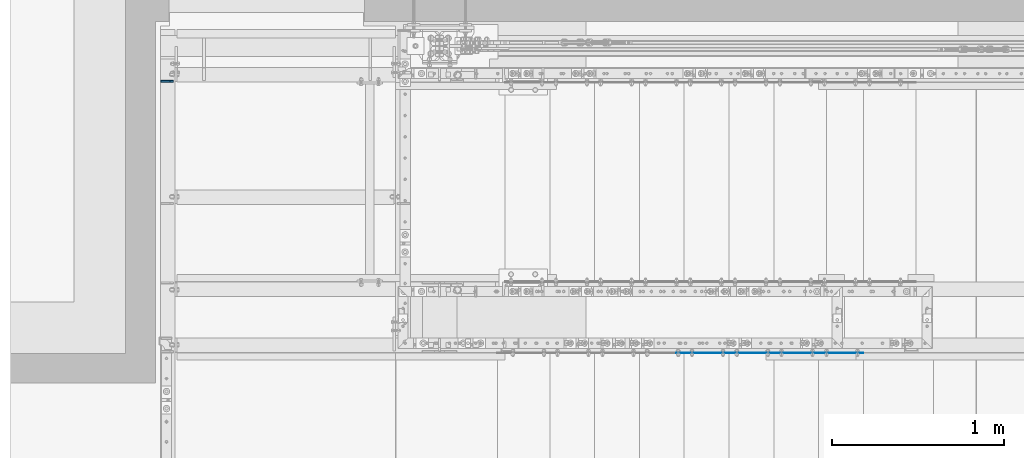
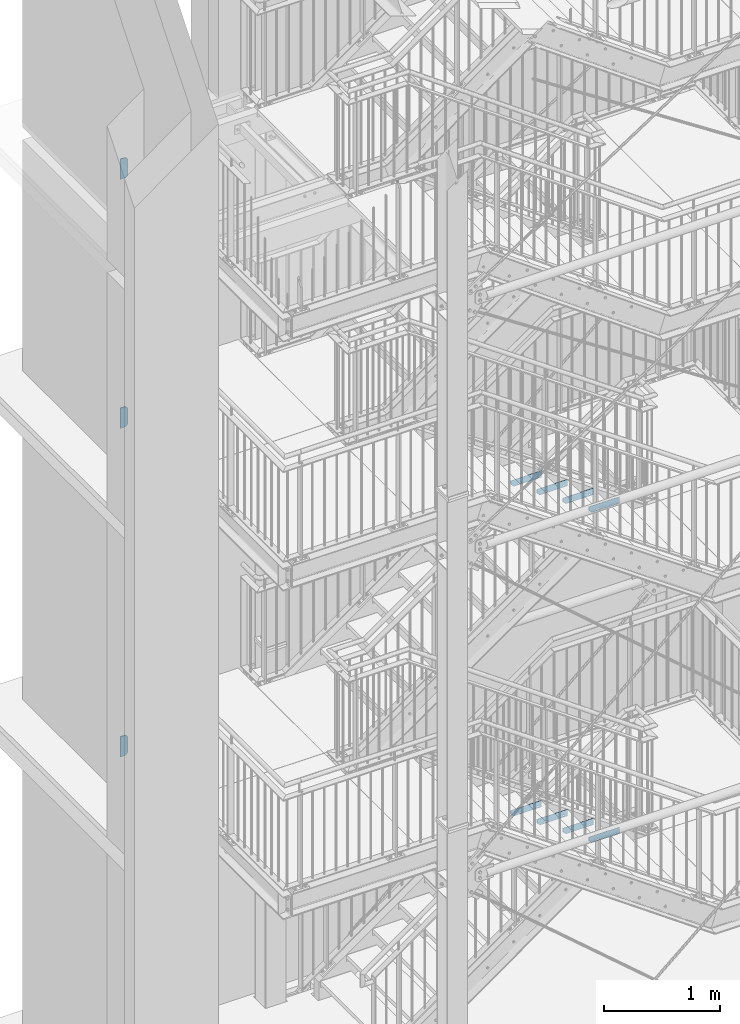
# One storey, part 175 of 825: 11 plates, 22 openings.
"""IFC2X3 building model written with IfcOpenShell, lengths in millimetres."""

from ifc_helpers import new_model, entity, si_unit, converted_unit, point, frame, frame_2d, origin, origin_with_axes, origin_2d_with_axis, place, context, project, spatial, polyline, circle_curve, line_curve, trimmed, segment, composite_curve, circle, outline, extrude, material, layer, layer_set, element, save


model = new_model("IFC2X3")

# Units and contexts
model_context = context("Model", 3, precision=1e-09, world=origin_with_axes())
ifc_project = project(units=[si_unit("LENGTHUNIT", "METRE", prefix="MILLI"), si_unit("AREAUNIT", "SQUARE_METRE"), si_unit("VOLUMEUNIT", "CUBIC_METRE"), converted_unit("PLANEANGLEUNIT", "DEGREE", entity("IfcPlaneAngleMeasure", 0.01745329), si_unit("PLANEANGLEUNIT", "RADIAN"), dimensions=[0, 0, 0, 0, 0, 0, 0])], contexts=[model_context])

# Site, building, storey
site_placement = place(None, origin_with_axes())
site = spatial("IfcSite", under=ifc_project, at=site_placement, Name="Cnopf'sche Kinderklinik", CompositionType="ELEMENT")
building_placement = place(site_placement, origin_with_axes())
building = spatial("IfcBuilding", under=site, at=building_placement, Name="Struktur 1", CompositionType="ELEMENT")
storey_placement = place(building_placement, origin_with_axes())
storey = spatial("IfcBuildingStorey", under=building, at=storey_placement, Name="Default Storey", CompositionType="ELEMENT", Elevation=0.0)

# Plate, openings
ifc_material = material(Name="S235JR")
ifc_layer_1 = layer(ifc_material, 3.0)
ifc_layer_set_1 = layer_set([ifc_layer_1], Name="S235JR")
plate_1_placement = place(None, frame((6536.713402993, 5733.736971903, 6446.0526315), z_axis=(0.0, 1.0, 0.0), x_axis=(0.0, 0.0, -1.0)))
plate_1 = element("IfcPlate", 1, at=plate_1_placement, inside=storey, material=ifc_layer_set_1, Name="Grate_Step#24", ObjectType="Grate_Step#24", context=model_context, shape_type="SweptSolid", body=[
    extrude(outline(polyline([(0.0, 0.0), (70.0, 0.0), (70.0, 275.0), (40.0, 305.0), (0.0, 305.0), (0.0, 0.0)])), origin_with_axes(), (0.0, 0.0, 1.0), 3.0),
])
opening_1_placement = place(plate_1_placement, frame((55.0, 35.0, -0.5), z_axis=(0.0, 0.0, 1.0), x_axis=(0.0, 1.0, 0.0)))
element("IfcOpeningElement", 2, at=opening_1_placement, cuts=plate_1, ObjectType="Opening", context=model_context, shape_type="SweptSolid", body=[
    extrude(circle(Radius=7.001, at=origin_2d_with_axis()), origin(), (0.0, 0.0, 1.0), 4.0),
])
opening_2_placement = place(plate_1_placement, frame((55.0, 215.0, -0.5), z_axis=(0.0, 0.0, 1.0), x_axis=(0.0, 1.0, 0.0)))
element("IfcOpeningElement", 3, at=opening_2_placement, cuts=plate_1, ObjectType="Opening", context=model_context, shape_type="SweptSolid", body=[
    extrude(outline(composite_curve([segment(trimmed(line_curve((-9.5, -7.001), (1.0, 0.0), 19.0), [point((-9.5, -7.001))], [point((9.5, -7.001))], True, "CARTESIAN"), True, "CONTINUOUS"), segment(trimmed(circle_curve(frame_2d((9.5, 0.0), x_axis=(1.0, 0.0)), 7.001), [point((9.5, -7.001))], [point((9.5, 7.001))], True, "CARTESIAN"), True, "CONTINUOUS"), segment(trimmed(line_curve((9.5, 7.001), (-1.0, 0.0), 19.0), [point((9.5, 7.001))], [point((-9.5, 7.001))], True, "CARTESIAN"), True, "CONTINUOUS"), segment(trimmed(circle_curve(frame_2d((-9.5, 0.0), x_axis=(1.0, 0.0)), 7.001), [point((-9.5, 7.001))], [point((-9.5, -7.001))], True, "CARTESIAN"), True, "CONTINUOUS")], self_intersect=False)), origin(), (0.0, 0.0, 1.0), 4.0),
])

plate_2_placement = place(None, frame((7316.713402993, 5733.736971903, 5897.6842104), z_axis=(0.0, 1.0, 0.0), x_axis=(0.0, 0.0, -1.0)))
plate_2 = element("IfcPlate", 4, at=plate_2_placement, inside=storey, material=ifc_layer_set_1, Name="Grate_Step#3", ObjectType="Grate_Step#3", context=model_context, shape_type="SweptSolid", body=[
    extrude(outline(polyline([(0.0, 0.0), (70.0, 0.0), (70.0, 275.0), (40.0, 305.0), (0.0, 305.0), (0.0, 0.0)])), origin_with_axes(), (0.0, 0.0, 1.0), 3.0),
])
opening_3_placement = place(plate_2_placement, frame((55.0, 35.0, -0.5), z_axis=(0.0, 0.0, 1.0), x_axis=(0.0, 1.0, 0.0)))
element("IfcOpeningElement", 5, at=opening_3_placement, cuts=plate_2, ObjectType="Opening", context=model_context, shape_type="SweptSolid", body=[
    extrude(circle(Radius=7.001, at=origin_2d_with_axis()), origin(), (0.0, 0.0, 1.0), 4.0),
])
opening_4_placement = place(plate_2_placement, frame((55.0, 215.0, -0.5), z_axis=(0.0, 0.0, 1.0), x_axis=(0.0, 1.0, 0.0)))
element("IfcOpeningElement", 6, at=opening_4_placement, cuts=plate_2, ObjectType="Opening", context=model_context, shape_type="SweptSolid", body=[
    extrude(outline(composite_curve([segment(trimmed(line_curve((-9.5, -7.001), (1.0, 0.0), 19.0), [point((-9.5, -7.001))], [point((9.5, -7.001))], True, "CARTESIAN"), True, "CONTINUOUS"), segment(trimmed(circle_curve(frame_2d((9.5, 0.0), x_axis=(1.0, 0.0)), 7.001), [point((9.5, -7.001))], [point((9.5, 7.001))], True, "CARTESIAN"), True, "CONTINUOUS"), segment(trimmed(line_curve((9.5, 7.001), (-1.0, 0.0), 19.0), [point((9.5, 7.001))], [point((-9.5, 7.001))], True, "CARTESIAN"), True, "CONTINUOUS"), segment(trimmed(circle_curve(frame_2d((-9.5, 0.0), x_axis=(1.0, 0.0)), 7.001), [point((-9.5, 7.001))], [point((-9.5, -7.001))], True, "CARTESIAN"), True, "CONTINUOUS")], self_intersect=False)), origin(), (0.0, 0.0, 1.0), 4.0),
])

plate_3_placement = place(None, frame((6796.713402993, 5733.736971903, 2776.3684208), z_axis=(0.0, 1.0, 0.0), x_axis=(0.0, 0.0, -1.0)))
plate_3 = element("IfcPlate", 7, at=plate_3_placement, inside=storey, material=ifc_layer_set_1, Name="Grate_Step#17", ObjectType="Grate_Step#17", context=model_context, shape_type="SweptSolid", body=[
    extrude(outline(polyline([(0.0, 0.0), (70.0, 0.0), (70.0, 275.0), (40.0, 305.0), (0.0, 305.0), (0.0, 0.0)])), origin_with_axes(), (0.0, 0.0, 1.0), 3.0),
])
opening_5_placement = place(plate_3_placement, frame((55.0, 215.0, -0.5), z_axis=(0.0, 0.0, 1.0), x_axis=(0.0, 1.0, 0.0)))
element("IfcOpeningElement", 8, at=opening_5_placement, cuts=plate_3, ObjectType="Opening", context=model_context, shape_type="SweptSolid", body=[
    extrude(outline(composite_curve([segment(trimmed(line_curve((-9.5, -7.001), (1.0, 0.0), 19.0), [point((-9.5, -7.001))], [point((9.5, -7.001))], True, "CARTESIAN"), True, "CONTINUOUS"), segment(trimmed(circle_curve(frame_2d((9.5, 0.0), x_axis=(1.0, 0.0)), 7.001), [point((9.5, -7.001))], [point((9.5, 7.001))], True, "CARTESIAN"), True, "CONTINUOUS"), segment(trimmed(line_curve((9.5, 7.001), (-1.0, 0.0), 19.0), [point((9.5, 7.001))], [point((-9.5, 7.001))], True, "CARTESIAN"), True, "CONTINUOUS"), segment(trimmed(circle_curve(frame_2d((-9.5, 0.0), x_axis=(1.0, 0.0)), 7.001), [point((-9.5, 7.001))], [point((-9.5, -7.001))], True, "CARTESIAN"), True, "CONTINUOUS")], self_intersect=False)), origin(), (0.0, 0.0, 1.0), 4.0),
])
opening_6_placement = place(plate_3_placement, frame((55.0, 35.0, -0.5), z_axis=(0.0, 0.0, 1.0), x_axis=(0.0, 1.0, 0.0)))
element("IfcOpeningElement", 9, at=opening_6_placement, cuts=plate_3, ObjectType="Opening", context=model_context, shape_type="SweptSolid", body=[
    extrude(circle(Radius=7.001, at=origin_2d_with_axis()), origin(), (0.0, 0.0, 1.0), 4.0),
])

plate_4_placement = place(None, frame((7316.713402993, 5733.736971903, 2406.1578944), z_axis=(0.0, 1.0, 0.0), x_axis=(0.0, 0.0, -1.0)))
plate_4 = element("IfcPlate", 10, at=plate_4_placement, inside=storey, material=ifc_layer_set_1, Name="Grate_Step#3", ObjectType="Grate_Step#3", context=model_context, shape_type="SweptSolid", body=[
    extrude(outline(polyline([(0.0, 0.0), (70.0, 0.0), (70.0, 275.0), (40.0, 305.0), (0.0, 305.0), (0.0, 0.0)])), origin_with_axes(), (0.0, 0.0, 1.0), 3.0),
])
opening_7_placement = place(plate_4_placement, frame((55.0, 215.0, -0.5), z_axis=(0.0, 0.0, 1.0), x_axis=(0.0, 1.0, 0.0)))
element("IfcOpeningElement", 11, at=opening_7_placement, cuts=plate_4, ObjectType="Opening", context=model_context, shape_type="SweptSolid", body=[
    extrude(outline(composite_curve([segment(trimmed(line_curve((-9.5, -7.001), (1.0, 0.0), 19.0), [point((-9.5, -7.001))], [point((9.5, -7.001))], True, "CARTESIAN"), True, "CONTINUOUS"), segment(trimmed(circle_curve(frame_2d((9.5, 0.0), x_axis=(1.0, 0.0)), 7.001), [point((9.5, -7.001))], [point((9.5, 7.001))], True, "CARTESIAN"), True, "CONTINUOUS"), segment(trimmed(line_curve((9.5, 7.001), (-1.0, 0.0), 19.0), [point((9.5, 7.001))], [point((-9.5, 7.001))], True, "CARTESIAN"), True, "CONTINUOUS"), segment(trimmed(circle_curve(frame_2d((-9.5, 0.0), x_axis=(1.0, 0.0)), 7.001), [point((-9.5, 7.001))], [point((-9.5, -7.001))], True, "CARTESIAN"), True, "CONTINUOUS")], self_intersect=False)), origin(), (0.0, 0.0, 1.0), 4.0),
])
opening_8_placement = place(plate_4_placement, frame((55.0, 35.0, -0.5), z_axis=(0.0, 0.0, 1.0), x_axis=(0.0, 1.0, 0.0)))
element("IfcOpeningElement", 12, at=opening_8_placement, cuts=plate_4, ObjectType="Opening", context=model_context, shape_type="SweptSolid", body=[
    extrude(circle(Radius=7.001, at=origin_2d_with_axis()), origin(), (0.0, 0.0, 1.0), 4.0),
])

plate_5_placement = place(None, frame((7056.713402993, 5733.736971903, 6080.4736841), z_axis=(0.0, 1.0, 0.0), x_axis=(0.0, 0.0, -1.0)))
plate_5 = element("IfcPlate", 13, at=plate_5_placement, inside=storey, material=ifc_layer_set_1, Name="Grate_Step#10", ObjectType="Grate_Step#10", context=model_context, shape_type="SweptSolid", body=[
    extrude(outline(polyline([(0.0, 0.0), (70.0, 0.0), (70.0, 275.0), (40.0, 305.0), (0.0, 305.0), (0.0, 0.0)])), origin_with_axes(), (0.0, 0.0, 1.0), 3.0),
])
opening_9_placement = place(plate_5_placement, frame((55.0, 215.0, -0.5), z_axis=(0.0, 0.0, 1.0), x_axis=(0.0, 1.0, 0.0)))
element("IfcOpeningElement", 14, at=opening_9_placement, cuts=plate_5, ObjectType="Opening", context=model_context, shape_type="SweptSolid", body=[
    extrude(outline(composite_curve([segment(trimmed(line_curve((-9.5, -7.001), (1.0, 0.0), 19.0), [point((-9.5, -7.001))], [point((9.5, -7.001))], True, "CARTESIAN"), True, "CONTINUOUS"), segment(trimmed(circle_curve(frame_2d((9.5, 0.0), x_axis=(1.0, 0.0)), 7.001), [point((9.5, -7.001))], [point((9.5, 7.001))], True, "CARTESIAN"), True, "CONTINUOUS"), segment(trimmed(line_curve((9.5, 7.001), (-1.0, 0.0), 19.0), [point((9.5, 7.001))], [point((-9.5, 7.001))], True, "CARTESIAN"), True, "CONTINUOUS"), segment(trimmed(circle_curve(frame_2d((-9.5, 0.0), x_axis=(1.0, 0.0)), 7.001), [point((-9.5, 7.001))], [point((-9.5, -7.001))], True, "CARTESIAN"), True, "CONTINUOUS")], self_intersect=False)), origin(), (0.0, 0.0, 1.0), 4.0),
])
opening_10_placement = place(plate_5_placement, frame((55.0, 35.0, -0.5), z_axis=(0.0, 0.0, 1.0), x_axis=(0.0, 1.0, 0.0)))
element("IfcOpeningElement", 15, at=opening_10_placement, cuts=plate_5, ObjectType="Opening", context=model_context, shape_type="SweptSolid", body=[
    extrude(circle(Radius=7.001, at=origin_2d_with_axis()), origin(), (0.0, 0.0, 1.0), 4.0),
])

plate_6_placement = place(None, frame((7056.713402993, 5733.736971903, 2591.2631576), z_axis=(0.0, 1.0, 0.0), x_axis=(0.0, 0.0, -1.0)))
plate_6 = element("IfcPlate", 16, at=plate_6_placement, inside=storey, material=ifc_layer_set_1, Name="Grate_Step#10", ObjectType="Grate_Step#10", context=model_context, shape_type="SweptSolid", body=[
    extrude(outline(polyline([(0.0, 0.0), (70.0, 0.0), (70.0, 275.0), (40.0, 305.0), (0.0, 305.0), (0.0, 0.0)])), origin_with_axes(), (0.0, 0.0, 1.0), 3.0),
])
opening_11_placement = place(plate_6_placement, frame((55.0, 215.0, -0.5), z_axis=(0.0, 0.0, 1.0), x_axis=(0.0, 1.0, 0.0)))
element("IfcOpeningElement", 17, at=opening_11_placement, cuts=plate_6, ObjectType="Opening", context=model_context, shape_type="SweptSolid", body=[
    extrude(outline(composite_curve([segment(trimmed(line_curve((-9.5, -7.001), (1.0, 0.0), 19.0), [point((-9.5, -7.001))], [point((9.5, -7.001))], True, "CARTESIAN"), True, "CONTINUOUS"), segment(trimmed(circle_curve(frame_2d((9.5, 0.0), x_axis=(1.0, 0.0)), 7.001), [point((9.5, -7.001))], [point((9.5, 7.001))], True, "CARTESIAN"), True, "CONTINUOUS"), segment(trimmed(line_curve((9.5, 7.001), (-1.0, 0.0), 19.0), [point((9.5, 7.001))], [point((-9.5, 7.001))], True, "CARTESIAN"), True, "CONTINUOUS"), segment(trimmed(circle_curve(frame_2d((-9.5, 0.0), x_axis=(1.0, 0.0)), 7.001), [point((-9.5, 7.001))], [point((-9.5, -7.001))], True, "CARTESIAN"), True, "CONTINUOUS")], self_intersect=False)), origin(), (0.0, 0.0, 1.0), 4.0),
])
opening_12_placement = place(plate_6_placement, frame((55.0, 35.0, -0.5), z_axis=(0.0, 0.0, 1.0), x_axis=(0.0, 1.0, 0.0)))
element("IfcOpeningElement", 18, at=opening_12_placement, cuts=plate_6, ObjectType="Opening", context=model_context, shape_type="SweptSolid", body=[
    extrude(circle(Radius=7.001, at=origin_2d_with_axis()), origin(), (0.0, 0.0, 1.0), 4.0),
])

plate_7_placement = place(None, frame((6796.713402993, 5733.736971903, 6263.2631578), z_axis=(0.0, 1.0, 0.0), x_axis=(0.0, 0.0, -1.0)))
plate_7 = element("IfcPlate", 19, at=plate_7_placement, inside=storey, material=ifc_layer_set_1, Name="Grate_Step#17", ObjectType="Grate_Step#17", context=model_context, shape_type="SweptSolid", body=[
    extrude(outline(polyline([(0.0, 0.0), (70.0, 0.0), (70.0, 275.0), (40.0, 305.0), (0.0, 305.0), (0.0, 0.0)])), origin_with_axes(), (0.0, 0.0, 1.0), 3.0),
])
opening_13_placement = place(plate_7_placement, frame((55.0, 35.0, -0.5), z_axis=(0.0, 0.0, 1.0), x_axis=(0.0, 1.0, 0.0)))
element("IfcOpeningElement", 20, at=opening_13_placement, cuts=plate_7, ObjectType="Opening", context=model_context, shape_type="SweptSolid", body=[
    extrude(circle(Radius=7.001, at=origin_2d_with_axis()), origin(), (0.0, 0.0, 1.0), 4.0),
])
opening_14_placement = place(plate_7_placement, frame((55.0, 215.0, -0.5), z_axis=(0.0, 0.0, 1.0), x_axis=(0.0, 1.0, 0.0)))
element("IfcOpeningElement", 21, at=opening_14_placement, cuts=plate_7, ObjectType="Opening", context=model_context, shape_type="SweptSolid", body=[
    extrude(outline(composite_curve([segment(trimmed(line_curve((-9.5, -7.001), (1.0, 0.0), 19.0), [point((-9.5, -7.001))], [point((9.5, -7.001))], True, "CARTESIAN"), True, "CONTINUOUS"), segment(trimmed(circle_curve(frame_2d((9.5, 0.0), x_axis=(1.0, 0.0)), 7.001), [point((9.5, -7.001))], [point((9.5, 7.001))], True, "CARTESIAN"), True, "CONTINUOUS"), segment(trimmed(line_curve((9.5, 7.001), (-1.0, 0.0), 19.0), [point((9.5, 7.001))], [point((-9.5, 7.001))], True, "CARTESIAN"), True, "CONTINUOUS"), segment(trimmed(circle_curve(frame_2d((-9.5, 0.0), x_axis=(1.0, 0.0)), 7.001), [point((-9.5, 7.001))], [point((-9.5, -7.001))], True, "CARTESIAN"), True, "CONTINUOUS")], self_intersect=False)), origin(), (0.0, 0.0, 1.0), 4.0),
])

plate_8_placement = place(None, frame((6536.713402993, 5733.736971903, 2961.473684), z_axis=(0.0, 1.0, 0.0), x_axis=(0.0, 0.0, -1.0)))
plate_8 = element("IfcPlate", 22, at=plate_8_placement, inside=storey, material=ifc_layer_set_1, Name="Grate_Step#24", ObjectType="Grate_Step#24", context=model_context, shape_type="SweptSolid", body=[
    extrude(outline(polyline([(0.0, 0.0), (70.0, 0.0), (70.0, 275.0), (40.0, 305.0), (0.0, 305.0), (0.0, 0.0)])), origin_with_axes(), (0.0, 0.0, 1.0), 3.0),
])
opening_15_placement = place(plate_8_placement, frame((55.0, 215.0, -0.5), z_axis=(0.0, 0.0, 1.0), x_axis=(0.0, 1.0, 0.0)))
element("IfcOpeningElement", 23, at=opening_15_placement, cuts=plate_8, ObjectType="Opening", context=model_context, shape_type="SweptSolid", body=[
    extrude(outline(composite_curve([segment(trimmed(line_curve((-9.5, -7.001), (1.0, 0.0), 19.0), [point((-9.5, -7.001))], [point((9.5, -7.001))], True, "CARTESIAN"), True, "CONTINUOUS"), segment(trimmed(circle_curve(frame_2d((9.5, 0.0), x_axis=(1.0, 0.0)), 7.001), [point((9.5, -7.001))], [point((9.5, 7.001))], True, "CARTESIAN"), True, "CONTINUOUS"), segment(trimmed(line_curve((9.5, 7.001), (-1.0, 0.0), 19.0), [point((9.5, 7.001))], [point((-9.5, 7.001))], True, "CARTESIAN"), True, "CONTINUOUS"), segment(trimmed(circle_curve(frame_2d((-9.5, 0.0), x_axis=(1.0, 0.0)), 7.001), [point((-9.5, 7.001))], [point((-9.5, -7.001))], True, "CARTESIAN"), True, "CONTINUOUS")], self_intersect=False)), origin(), (0.0, 0.0, 1.0), 4.0),
])
opening_16_placement = place(plate_8_placement, frame((55.0, 35.0, -0.5), z_axis=(0.0, 0.0, 1.0), x_axis=(0.0, 1.0, 0.0)))
element("IfcOpeningElement", 24, at=opening_16_placement, cuts=plate_8, ObjectType="Opening", context=model_context, shape_type="SweptSolid", body=[
    extrude(circle(Radius=7.001, at=origin_2d_with_axis()), origin(), (0.0, 0.0, 1.0), 4.0),
])

ifc_layer_2 = layer(ifc_material, 10.0)
ifc_layer_set_2 = layer_set([ifc_layer_2], Name="S235JR")
plate_9_placement = place(None, frame((3312.213402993, 7316.736971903, 3829.855161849), z_axis=(0.0, -1.0, 0.0), x_axis=(-0.996815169, 0.0, 0.079746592)))
plate_9 = element("IfcPlate", 25, at=plate_9_placement, inside=storey, material=ifc_layer_set_2, Name="Stiffener#1", ObjectType="Stiffener#1", context=model_context, shape_type="SweptSolid", body=[
    extrude(outline(polyline([(0.0, 0.0), (75.239625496, 0.0), (57.877952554, 217.017159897), (-16.404697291, 205.05517107), (0.0, 0.0)])), origin_with_axes(), (0.0, 0.0, 1.0), 10.0),
])
opening_17_placement = place(plate_9_placement, frame((0.0, 0.0, -0.01), z_axis=(0.0, 0.0, 1.0), x_axis=(1.0, 0.0, 0.0)))
element("IfcOpeningElement", 26, at=opening_17_placement, cuts=plate_9, ObjectType="Opening", context=model_context, shape_type="SweptSolid", body=[
    extrude(outline(polyline([(-16.404697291, 205.05517107), (-14.809765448, 185.118867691), (3.34092195, 208.23487558), (-16.404697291, 205.05517107)])), origin(), (0.0, 0.0, 1.0), 10.02),
])
opening_18_placement = place(plate_9_placement, frame((0.0, 0.0, -0.01), z_axis=(0.0, 0.0, 1.0), x_axis=(1.0, 0.0, 0.0)))
element("IfcOpeningElement", 27, at=opening_18_placement, cuts=plate_9, ObjectType="Opening", context=model_context, shape_type="SweptSolid", body=[
    extrude(outline(polyline([(0.0, 0.0), (20.0, 0.0), (-1.594931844, 19.936303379), (0.0, 0.0)])), origin(), (0.0, 0.0, 1.0), 10.02),
])

plate_10_placement = place(None, frame((3312.213402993, 7316.736971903, 7302.855161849), z_axis=(0.0, -1.0, 0.0), x_axis=(-0.996815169, 0.0, 0.079746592)))
plate_10 = element("IfcPlate", 28, at=plate_10_placement, inside=storey, material=ifc_layer_set_2, Name="Stiffener#1", ObjectType="Stiffener#1", context=model_context, shape_type="SweptSolid", body=[
    extrude(outline(polyline([(0.0, 0.0), (75.239625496, 0.0), (57.877952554, 217.017159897), (-16.404697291, 205.05517107), (0.0, 0.0)])), origin_with_axes(), (0.0, 0.0, 1.0), 10.0),
])
opening_19_placement = place(plate_10_placement, frame((0.0, 0.0, -0.01), z_axis=(0.0, 0.0, 1.0), x_axis=(1.0, 0.0, 0.0)))
element("IfcOpeningElement", 29, at=opening_19_placement, cuts=plate_10, ObjectType="Opening", context=model_context, shape_type="SweptSolid", body=[
    extrude(outline(polyline([(-16.404697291, 205.05517107), (-14.809765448, 185.118867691), (3.34092195, 208.23487558), (-16.404697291, 205.05517107)])), origin(), (0.0, 0.0, 1.0), 10.02),
])
opening_20_placement = place(plate_10_placement, frame((0.0, 0.0, -0.01), z_axis=(0.0, 0.0, 1.0), x_axis=(1.0, 0.0, 0.0)))
element("IfcOpeningElement", 30, at=opening_20_placement, cuts=plate_10, ObjectType="Opening", context=model_context, shape_type="SweptSolid", body=[
    extrude(outline(polyline([(0.0, 0.0), (20.0, 0.0), (-1.594931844, 19.936303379), (0.0, 0.0)])), origin(), (0.0, 0.0, 1.0), 10.02),
])

plate_11_placement = place(None, frame((3312.213402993, 7316.736971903, 9934.855161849), z_axis=(0.0, -1.0, 0.0), x_axis=(-0.996815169, 0.0, 0.079746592)))
plate_11 = element("IfcPlate", 31, at=plate_11_placement, inside=storey, material=ifc_layer_set_2, Name="Stiffener#1", ObjectType="Stiffener#1", context=model_context, shape_type="SweptSolid", body=[
    extrude(outline(polyline([(0.0, 0.0), (75.239625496, 0.0), (57.877952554, 217.017159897), (-16.404697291, 205.05517107), (0.0, 0.0)])), origin_with_axes(), (0.0, 0.0, 1.0), 10.0),
])
opening_21_placement = place(plate_11_placement, frame((0.0, 0.0, -0.01), z_axis=(0.0, 0.0, 1.0), x_axis=(1.0, 0.0, 0.0)))
element("IfcOpeningElement", 32, at=opening_21_placement, cuts=plate_11, ObjectType="Opening", context=model_context, shape_type="SweptSolid", body=[
    extrude(outline(polyline([(-16.404697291, 205.05517107), (-14.809765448, 185.118867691), (3.34092195, 208.23487558), (-16.404697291, 205.05517107)])), origin(), (0.0, 0.0, 1.0), 10.02),
])
opening_22_placement = place(plate_11_placement, frame((0.0, 0.0, -0.01), z_axis=(0.0, 0.0, 1.0), x_axis=(1.0, 0.0, 0.0)))
element("IfcOpeningElement", 33, at=opening_22_placement, cuts=plate_11, ObjectType="Opening", context=model_context, shape_type="SweptSolid", body=[
    extrude(outline(polyline([(0.0, 0.0), (20.0, 0.0), (-1.594931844, 19.936303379), (0.0, 0.0)])), origin(), (0.0, 0.0, 1.0), 10.02),
])

save(model, "model.ifc")
